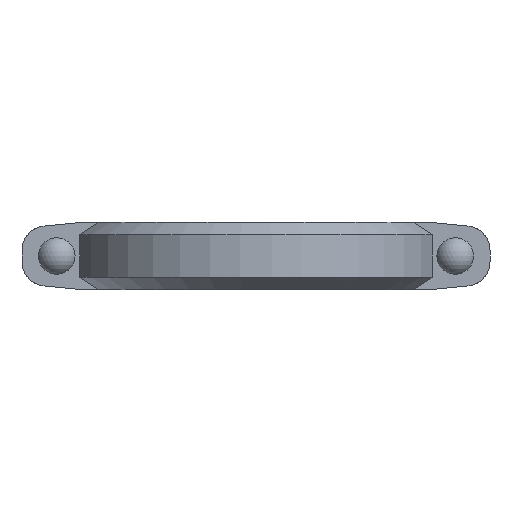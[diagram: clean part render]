
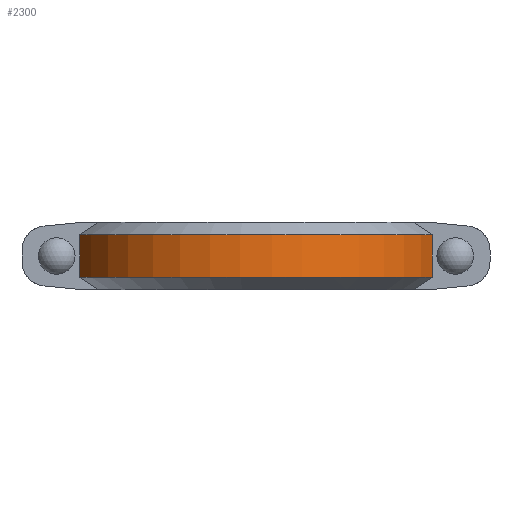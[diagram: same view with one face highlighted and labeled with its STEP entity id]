
A CAD part, front view. The second image highlights one B-rep face of the part: STEP entity #2300.
In plain terms, the highlighted cylindrical face has radius 190.5 mm (diameter 381 mm), a partial arc.
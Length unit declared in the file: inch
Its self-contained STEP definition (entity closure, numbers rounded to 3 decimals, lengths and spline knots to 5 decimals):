
#305=FACE_OUTER_BOUND('',#438,.T.);
#438=EDGE_LOOP('',(#2010,#2011,#2012,#2013));
#599=LINE('',#4495,#768);
#600=LINE('',#4503,#769);
#768=VECTOR('',#3151,0.3937);
#769=VECTOR('',#3154,0.3937);
#865=CIRCLE('',#2548,7.5);
#866=CIRCLE('',#2552,7.5);
#1056=VERTEX_POINT('',#4485);
#1057=VERTEX_POINT('',#4491);
#1058=VERTEX_POINT('',#4497);
#1060=VERTEX_POINT('',#4502);
#1360=EDGE_CURVE('',#1056,#1057,#599,.T.);
#1362=EDGE_CURVE('',#1060,#1058,#600,.T.);
#1381=EDGE_CURVE('',#1056,#1058,#865,.T.);
#1383=EDGE_CURVE('',#1057,#1060,#866,.T.);
#2010=ORIENTED_EDGE('',*,*,#1362,.T.);
#2011=ORIENTED_EDGE('',*,*,#1381,.F.);
#2012=ORIENTED_EDGE('',*,*,#1360,.T.);
#2013=ORIENTED_EDGE('',*,*,#1383,.T.);
#2060=CYLINDRICAL_SURFACE('',#2553,7.5);
#2300=ADVANCED_FACE('',(#305),#2060,.T.);
#2548=AXIS2_PLACEMENT_3D('',#4548,#3191,#3192);
#2552=AXIS2_PLACEMENT_3D('',#4553,#3200,#3201);
#2553=AXIS2_PLACEMENT_3D('',#4554,#3202,#3203);
#3151=DIRECTION('',(0.,0.,1.));
#3154=DIRECTION('',(0.,0.,-1.));
#3191=DIRECTION('center_axis',(0.,0.,-1.));
#3192=DIRECTION('ref_axis',(-1.,0.,0.));
#3200=DIRECTION('center_axis',(0.,0.,-1.));
#3201=DIRECTION('ref_axis',(-1.,0.,0.));
#3202=DIRECTION('center_axis',(0.,0.,-1.));
#3203=DIRECTION('ref_axis',(0.,-1.,0.));
#4485=CARTESIAN_POINT('',(7.16391,-2.22,-0.855));
#4491=CARTESIAN_POINT('',(7.16391,-2.22,0.855));
#4495=CARTESIAN_POINT('',(7.16391,-2.22,0.));
#4497=CARTESIAN_POINT('',(-7.16391,-2.22,-0.855));
#4502=CARTESIAN_POINT('',(-7.16391,-2.22,0.855));
#4503=CARTESIAN_POINT('',(-7.16391,-2.22,0.));
#4548=CARTESIAN_POINT('Origin',(0.,0.,-0.855));
#4553=CARTESIAN_POINT('Origin',(0.,0.,0.855));
#4554=CARTESIAN_POINT('Origin',(0.,0.,0.));
